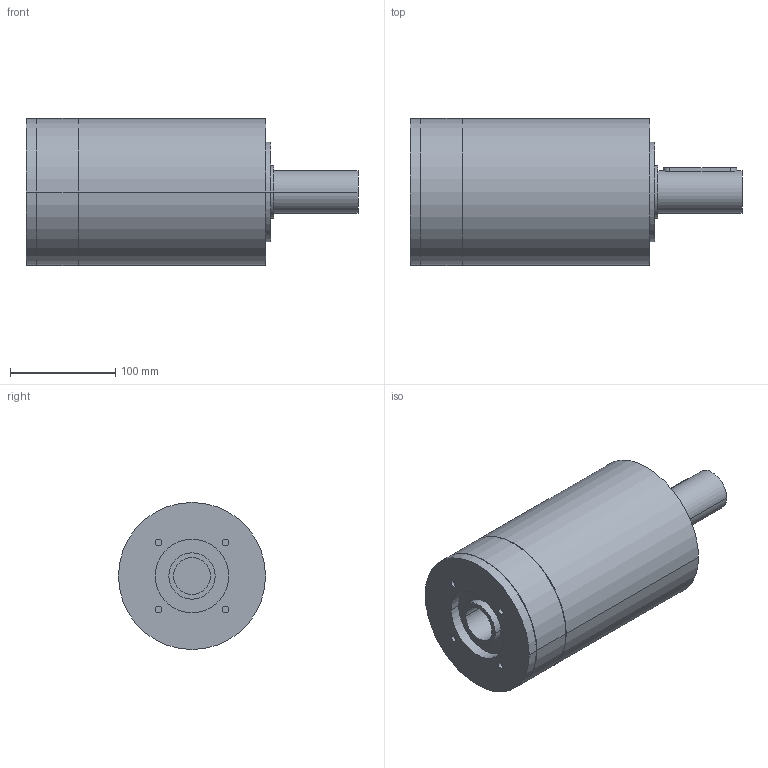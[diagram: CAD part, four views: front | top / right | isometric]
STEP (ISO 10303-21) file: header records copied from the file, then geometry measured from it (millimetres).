
FILE_DESCRIPTION(('CoCreate Modeling STEP Export'),'2;1');
FILE_NAME('GPR150_ig-9-12-16-20-28-35_40_B14_35_P15.stp','2014-08-19T17:04:23',(''),(''),'CoCreate Modeling STEP processor for AP214 (Solid Model)','CoCreate Modeling 16.00C 25-Feb-2009 (C) Parametric Technology GmbH','');
FILE_SCHEMA(('AUTOMOTIVE_DESIGN { 1 0 10303 214 1 1 1 1 }'));
Length unit declared in the file: millimetre
Products named in the file (2): GPR150_ig-9-12-16-20-28-35_40_B14_35_P15
Assembly tree (1 placements, depth 2):
  GPR150_ig-9-12-16-20-28-35_40_B14_35_P15
    GPR150_ig-9-12-16-20-28-35_40_B14_35_P15
Bounding box: 316 x 140 x 140 mm (x, y, z)
Volume: 3537104.6 mm3; surface area: 162365.6 mm2
Topology: 1 solids, 1 shells, 77 faces, 192 edges, 136 vertices
Faces by surface type: cylinder 46, plane 25, cone 6
Entity records: 1965 total; most frequent: ORIENTED_EDGE 380, CARTESIAN_POINT 379, DIRECTION 252, EDGE_CURVE 190, VERTEX_POINT 136, EDGE_LOOP 98, AXIS2_PLACEMENT_3D 97, FACE_OUTER_BOUND 77
